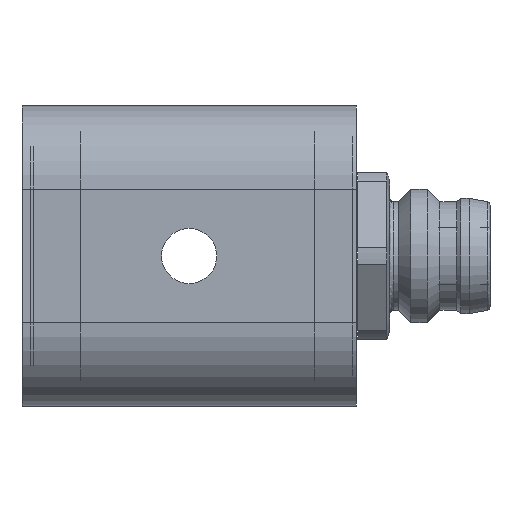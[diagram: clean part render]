
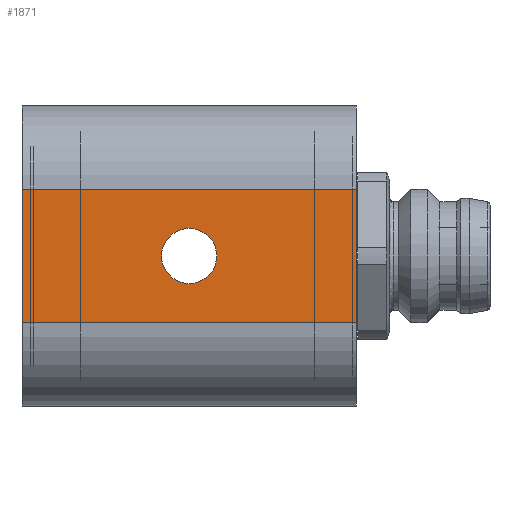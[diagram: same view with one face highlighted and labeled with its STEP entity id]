
A CAD part, left-side view. The second image highlights one B-rep face of the part: STEP entity #1871.
In plain terms, the highlighted planar face has unit normal (-1, 0, 0).
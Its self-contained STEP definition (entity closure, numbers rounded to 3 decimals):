
#163 = CARTESIAN_POINT ( 'NONE',  ( -155., 8.3, 1.65 ) ) ;
#182 = CARTESIAN_POINT ( 'NONE',  ( -155., 18.3, -4. ) ) ;
#210 = ORIENTED_EDGE ( 'NONE', *, *, #334, .F. ) ;
#334 = EDGE_CURVE ( 'NONE', #1418, #2193, #1893, .T. ) ;
#348 = CARTESIAN_POINT ( 'NONE',  ( -155., -1.7, -4. ) ) ;
#532 = LINE ( 'NONE', #757, #3705 ) ;
#551 = AXIS2_PLACEMENT_3D ( 'NONE', #1594, #4285, #1927 ) ;
#565 = CARTESIAN_POINT ( 'NONE',  ( -155., 8.3, 0. ) ) ;
#757 = CARTESIAN_POINT ( 'NONE',  ( -155., 18.3, 4. ) ) ;
#917 = DIRECTION ( 'NONE',  ( 0., 0., 1. ) ) ;
#985 = EDGE_LOOP ( 'NONE', ( #1203, #2322, #210, #3781 ) ) ;
#1104 = EDGE_LOOP ( 'NONE', ( #2878 ) ) ;
#1203 = ORIENTED_EDGE ( 'NONE', *, *, #1225, .F. ) ;
#1225 = EDGE_CURVE ( 'NONE', #3015, #1681, #2449, .T. ) ;
#1266 = DIRECTION ( 'NONE',  ( 0., 0., 1. ) ) ;
#1418 = VERTEX_POINT ( 'NONE', #3190 ) ;
#1487 = VECTOR ( 'NONE', #1266, 1000. ) ;
#1564 = EDGE_CURVE ( 'NONE', #1418, #1681, #532, .T. ) ;
#1575 = VERTEX_POINT ( 'NONE', #163 ) ;
#1577 = PLANE ( 'NONE',  #551 ) ;
#1594 = CARTESIAN_POINT ( 'NONE',  ( -155., 18.3, 9. ) ) ;
#1681 = VERTEX_POINT ( 'NONE', #3103 ) ;
#1786 = AXIS2_PLACEMENT_3D ( 'NONE', #565, #2569, #917 ) ;
#1871 = ADVANCED_FACE ( 'NONE', ( #4390, #1968 ), #1577, .F. ) ;
#1893 = LINE ( 'NONE', #348, #4352 ) ;
#1927 = DIRECTION ( 'NONE',  ( 0., 0., -1. ) ) ;
#1968 = FACE_OUTER_BOUND ( 'NONE', #985, .T. ) ;
#2089 = DIRECTION ( 'NONE',  ( 0., 1., 0. ) ) ;
#2193 = VERTEX_POINT ( 'NONE', #4375 ) ;
#2322 = ORIENTED_EDGE ( 'NONE', *, *, #4217, .T. ) ;
#2361 = DIRECTION ( 'NONE',  ( 0., 0., -1. ) ) ;
#2449 = LINE ( 'NONE', #3321, #1487 ) ;
#2569 = DIRECTION ( 'NONE',  ( -1., 0., 0. ) ) ;
#2856 = CIRCLE ( 'NONE', #1786, 1.65 ) ;
#2878 = ORIENTED_EDGE ( 'NONE', *, *, #3124, .F. ) ;
#2963 = VECTOR ( 'NONE', #4275, 1000. ) ;
#3015 = VERTEX_POINT ( 'NONE', #182 ) ;
#3103 = CARTESIAN_POINT ( 'NONE',  ( -155., 18.3, 4. ) ) ;
#3124 = EDGE_CURVE ( 'NONE', #1575, #1575, #2856, .T. ) ;
#3190 = CARTESIAN_POINT ( 'NONE',  ( -155., -1.7, 4. ) ) ;
#3321 = CARTESIAN_POINT ( 'NONE',  ( -155., 18.3, 9. ) ) ;
#3616 = CARTESIAN_POINT ( 'NONE',  ( -155., 18.3, -4. ) ) ;
#3705 = VECTOR ( 'NONE', #2089, 1000. ) ;
#3781 = ORIENTED_EDGE ( 'NONE', *, *, #1564, .T. ) ;
#3842 = LINE ( 'NONE', #3616, #2963 ) ;
#4217 = EDGE_CURVE ( 'NONE', #3015, #2193, #3842, .T. ) ;
#4275 = DIRECTION ( 'NONE',  ( 0., -1., 0. ) ) ;
#4285 = DIRECTION ( 'NONE',  ( 1., 0., 0. ) ) ;
#4352 = VECTOR ( 'NONE', #2361, 1000. ) ;
#4375 = CARTESIAN_POINT ( 'NONE',  ( -155., -1.7, -4. ) ) ;
#4390 = FACE_BOUND ( 'NONE', #1104, .T. ) ;
